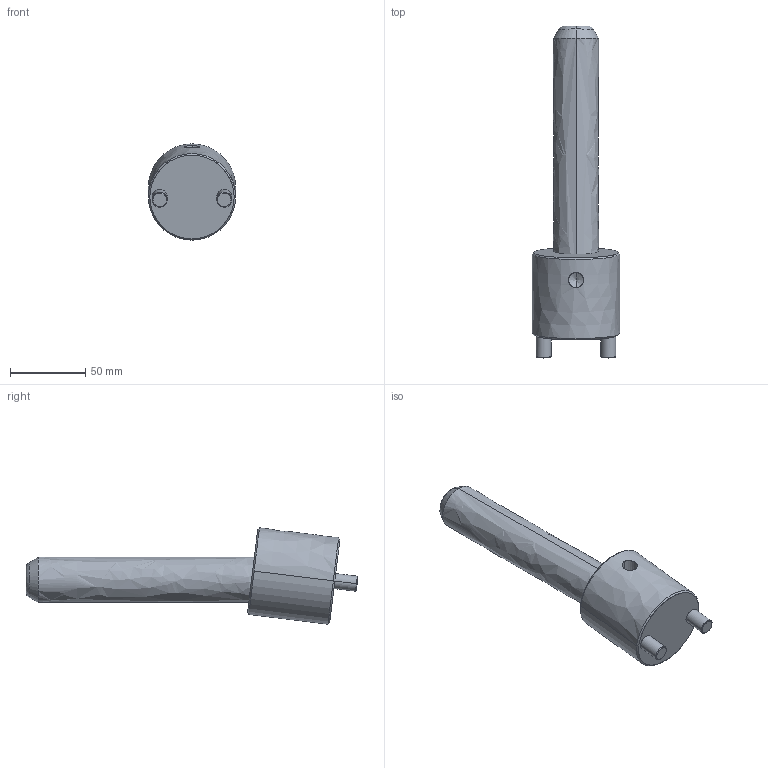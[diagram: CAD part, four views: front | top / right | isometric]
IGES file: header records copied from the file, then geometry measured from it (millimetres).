
Start section: START RECORD GO HERE.
Global section: file name: CI0730150.igs; native system: DASSAULT SYSTEMES CATIA V5 R20 - www.3ds.com; preprocessor: CATIA Version 5 Release 20 ; author: r.borello; organization: CFTORINO; date: 20190624.093421; units: millimetre
Bounding box: 58 x 220.76 x 64.03 mm (x, y, z)
Surface area: 40294.7 mm2 (no closed solid volume)
Topology: 0 solids, 0 shells, 39 faces, 162 edges, 160 vertices
Faces by surface type: revolution 32, plane 7
